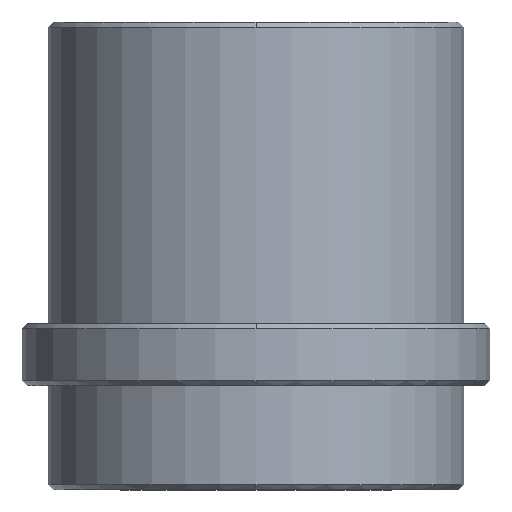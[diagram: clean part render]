
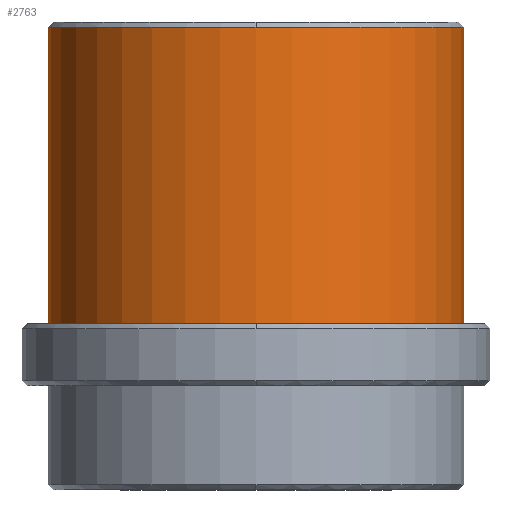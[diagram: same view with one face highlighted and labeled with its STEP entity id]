
A CAD part, front view. The second image highlights one B-rep face of the part: STEP entity #2763.
In plain terms, the highlighted cylindrical face has radius 20 mm (diameter 40 mm), a partial arc.
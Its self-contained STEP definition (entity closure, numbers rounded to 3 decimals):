
#2584=CARTESIAN_POINT('Vertex',(20.,0.,34.5)) ;
#2608=CARTESIAN_POINT('Vertex',(-20.,0.,34.5)) ;
#2632=CARTESIAN_POINT('Vertex',(0.,-20.,34.5)) ;
#2635=CARTESIAN_POINT('Axis2P3D Location',(0.,0.,34.5)) ;
#2652=CARTESIAN_POINT('Axis2P3D Location',(0.,0.,34.5)) ;
#2719=CARTESIAN_POINT('Line Origine',(20.,0.,-12.25)) ;
#2723=CARTESIAN_POINT('Vertex',(20.,0.,6.)) ;
#2730=CARTESIAN_POINT('Vertex',(-20.,0.,6.)) ;
#2733=CARTESIAN_POINT('Line Origine',(-20.,0.,-12.25)) ;
#2746=CARTESIAN_POINT('Axis2P3D Location',(0.,0.,-12.25)) ;
#2751=CARTESIAN_POINT('Axis2P3D Location',(0.,0.,6.)) ;
#2636=DIRECTION('Axis2P3D Direction',(0.,0.,-1.)) ;
#2653=DIRECTION('Axis2P3D Direction',(0.,0.,-1.)) ;
#2720=DIRECTION('Vector Direction',(0.,0.,1.)) ;
#2734=DIRECTION('Vector Direction',(0.,0.,1.)) ;
#2747=DIRECTION('Axis2P3D Direction',(0.,0.,1.)) ;
#2748=DIRECTION('Axis2P3D XDirection',(-1.,0.,0.)) ;
#2752=DIRECTION('Axis2P3D Direction',(0.,0.,1.)) ;
#2637=AXIS2_PLACEMENT_3D('Circle Axis2P3D',#2635,#2636,$) ;
#2654=AXIS2_PLACEMENT_3D('Circle Axis2P3D',#2652,#2653,$) ;
#2749=AXIS2_PLACEMENT_3D('Cylinder Axis2P3D',#2746,#2747,#2748) ;
#2753=AXIS2_PLACEMENT_3D('Circle Axis2P3D',#2751,#2752,$) ;
#2757=ORIENTED_EDGE('',*,*,#2737,.T.) ;
#2758=ORIENTED_EDGE('',*,*,#2755,.F.) ;
#2759=ORIENTED_EDGE('',*,*,#2725,.F.) ;
#2760=ORIENTED_EDGE('',*,*,#2656,.T.) ;
#2761=ORIENTED_EDGE('',*,*,#2639,.T.) ;
#2721=VECTOR('Line Direction',#2720,1.) ;
#2735=VECTOR('Line Direction',#2734,1.) ;
#2763=ADVANCED_FACE('MANIFOLD_SOLID_BREP #2364',(#2762),#2750,.T.) ;
#2638=CIRCLE('generated circle',#2637,20.) ;
#2655=CIRCLE('generated circle',#2654,20.) ;
#2754=CIRCLE('generated circle',#2753,20.) ;
#2750=CYLINDRICAL_SURFACE('generated cylinder',#2749,20.) ;
#2639=EDGE_CURVE('',#2633,#2609,#2638,.T.) ;
#2656=EDGE_CURVE('',#2585,#2633,#2655,.T.) ;
#2725=EDGE_CURVE('',#2585,#2724,#2722,.F.) ;
#2737=EDGE_CURVE('',#2609,#2731,#2736,.F.) ;
#2755=EDGE_CURVE('',#2724,#2731,#2754,.F.) ;
#2756=EDGE_LOOP('',(#2757,#2758,#2759,#2760,#2761)) ;
#2762=FACE_OUTER_BOUND('',#2756,.T.) ;
#2722=LINE('Line',#2719,#2721) ;
#2736=LINE('Line',#2733,#2735) ;
#2585=VERTEX_POINT('',#2584) ;
#2609=VERTEX_POINT('',#2608) ;
#2633=VERTEX_POINT('',#2632) ;
#2724=VERTEX_POINT('',#2723) ;
#2731=VERTEX_POINT('',#2730) ;
